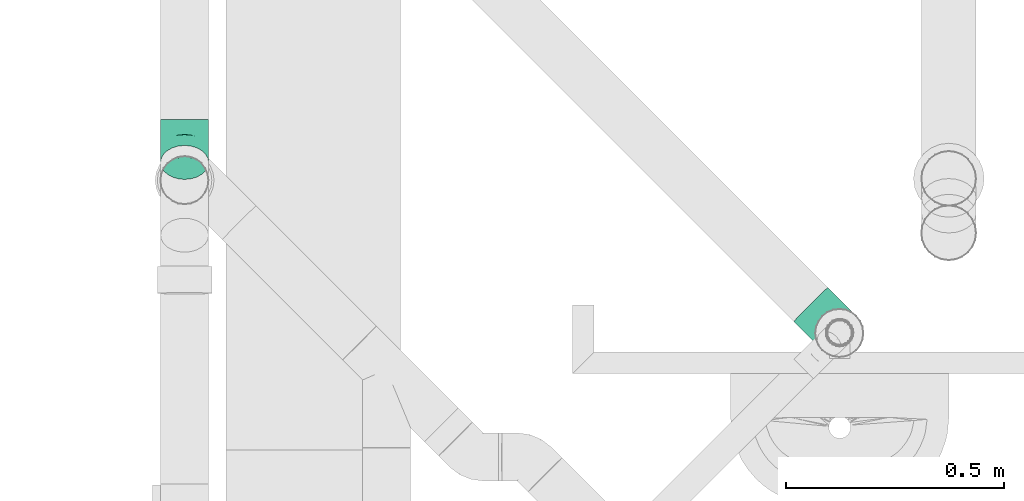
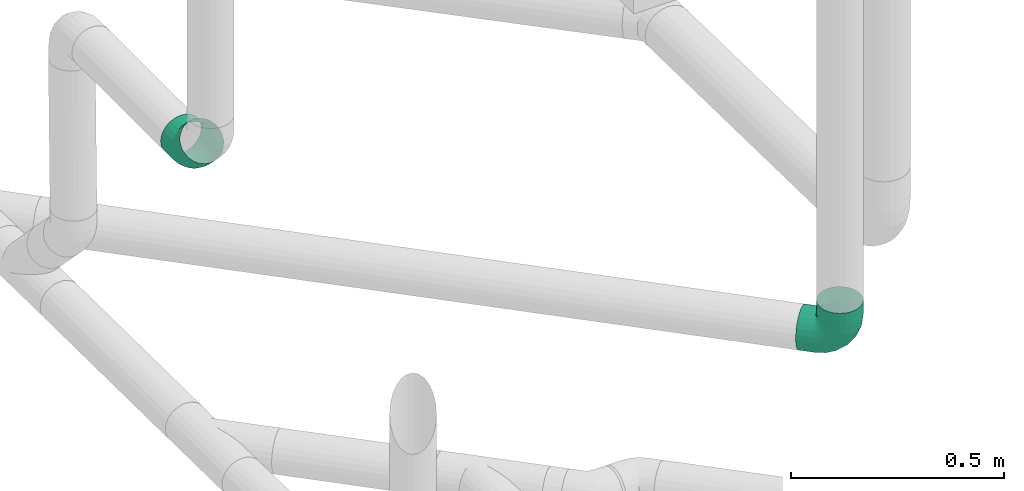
# One storey, part 137 of 374: 2 flow fittings.
"""IFC2X3 building model written with IfcOpenShell, lengths in metres."""

from ifc_helpers import new_model, si_unit, direction, origin, place, context, subcontext, project, spatial, open_shell, surface_model, source, transform, mapped, element, save


model = new_model("IFC2X3")

# Units and contexts
model_context = context("Model", 3, precision=1e-05, world=origin(), true_north=direction((-0.4480736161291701, 0.8939966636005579)))
body_context = subcontext(model_context, "Body", "Model", "MODEL_VIEW")
ifc_project = project(units=[si_unit("LENGTHUNIT", "METRE"), si_unit("AREAUNIT", "SQUARE_METRE"), si_unit("VOLUMEUNIT", "CUBIC_METRE"), si_unit("PLANEANGLEUNIT", "RADIAN"), si_unit("THERMODYNAMICTEMPERATUREUNIT", "KELVIN"), si_unit("MASSUNIT", "GRAM", prefix="KILO"), si_unit("TIMEUNIT", "SECOND")], contexts=[model_context])

# Site, building, storey
site_placement = place(None, origin())
site = spatial("IfcSite", under=ifc_project, at=site_placement, Name="Site 1", CompositionType="ELEMENT")
building_placement = place(site_placement, origin())
building = spatial("IfcBuilding", under=site, at=building_placement, Name="Undefined", CompositionType="ELEMENT")
storey_placement = place(building_placement, origin())
storey = spatial("IfcBuildingStorey", under=building, at=storey_placement, Name="Rez de chauss\x8ee", CompositionType="ELEMENT", Elevation=0.0)

# Flow fittings
shared_shape_1 = source(origin(), body_context, "Body", "SurfaceModel", [
    surface_model("IfcFaceBasedSurfaceModel", [(0.0, 0.014357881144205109, -3.552713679e-15), (0.0, 0.0, 0.0), (0.03509999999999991, 1.776356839e-15, -1.776356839e-15), (0.03509999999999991, 0.014357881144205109, 0.0), (0.0, -0.01386864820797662, -0.0037160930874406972), (0.035100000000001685, -0.01386864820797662, -0.003716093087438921), (0.0, -0.026302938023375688, -0.010895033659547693), (0.03509999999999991, -0.026302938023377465, -0.010895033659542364), (0.0, -0.03645549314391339, -0.021047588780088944), (0.035100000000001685, -0.03645549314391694, -0.021047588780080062), (0.0, -0.04363443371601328, -0.033481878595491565), (0.035100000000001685, -0.043634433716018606, -0.03348187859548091), (0.0, -0.04735052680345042, -0.04735052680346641), (0.03510000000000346, -0.04735052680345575, -0.04735052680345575), (0.0, -0.04735052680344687, -0.06170840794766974), (0.035100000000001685, -0.047350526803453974, -0.061708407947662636), (0.0, -0.04363443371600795, -0.07557705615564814), (0.035100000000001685, -0.04363443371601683, -0.07557705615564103), (0.0, -0.03645549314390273, -0.08801134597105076), (0.035100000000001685, -0.03645549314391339, -0.08801134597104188), (0.0, -0.026302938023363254, -0.0981639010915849), (0.03510000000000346, -0.026302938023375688, -0.09816390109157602), (0.0, -0.013868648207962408, -0.1053428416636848), (0.03510000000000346, -0.013868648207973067, -0.10534284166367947), (0.0, 1.5987211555e-14, -0.10905893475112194), (0.03510000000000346, 5.329070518e-15, -0.10905893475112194), (0.0, 0.014357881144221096, -0.10905893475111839), (0.035100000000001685, 0.014357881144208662, -0.10905893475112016), (0.0, 0.028226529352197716, -0.10534284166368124), (0.03510000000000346, 0.02822652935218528, -0.10534284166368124), (0.0, 0.040660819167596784, -0.0981639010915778), (0.03510000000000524, 0.040660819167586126, -0.09816390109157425), (0.0, 0.05081337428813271, -0.08801134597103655), (0.035100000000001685, 0.050813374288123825, -0.08801134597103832), (0.0, 0.05799231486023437, -0.07557705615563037), (0.035100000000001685, 0.05799231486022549, -0.07557705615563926), (0.0, 0.06170840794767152, -0.06170840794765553), (0.035100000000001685, 0.06170840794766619, -0.06170840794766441), (0.0, 0.061708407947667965, -0.0473505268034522), (0.035100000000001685, 0.061708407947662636, -0.0473505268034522), (0.0, 0.05799231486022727, -0.033481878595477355), (0.03510000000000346, 0.057992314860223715, -0.033481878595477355), (0.0, 0.050813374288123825, -0.021047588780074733), (0.035100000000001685, 0.05081337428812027, -0.021047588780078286), (0.0, 0.04066081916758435, -0.010895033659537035), (0.035100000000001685, 0.040660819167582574, -0.010895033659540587), (0.0, 0.028226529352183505, -0.0037160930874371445), (0.035100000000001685, 0.028226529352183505, -0.003716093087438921), (0.06308504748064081, -0.04369774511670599, -0.06218930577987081), (0.06357009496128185, -0.04363443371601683, -0.04783975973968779), (0.08916296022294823, -0.03298833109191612, -0.0635992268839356), (0.09010000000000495, -0.032739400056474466, -0.04927411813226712), (0.11155657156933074, -0.015952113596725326, -0.06584208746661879), (0.11288174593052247, -0.015407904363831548, -0.051555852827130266), (0.061662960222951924, -0.040167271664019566, -0.07603351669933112), (0.08641569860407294, -0.030002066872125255, -0.07737179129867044), (0.10767135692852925, -0.013831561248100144, -0.07950067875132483), (0.05940074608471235, -0.03328360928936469, -0.08842893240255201), (0.08204543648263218, -0.023984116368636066, -0.0896532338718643), (0.10149087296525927, -0.009190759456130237, -0.09160081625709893), (0.05645257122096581, -0.02351586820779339, -0.09853082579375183), (0.07635000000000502, -0.015344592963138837, -0.09960659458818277), (0.09343630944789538, -0.0023459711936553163, -0.10131789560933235), (0.053019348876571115, -0.011529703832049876, -0.1056507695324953), (0.06971752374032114, -0.004672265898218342, -0.10655356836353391), (0.08405657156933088, 0.006236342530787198, -0.10798971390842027), (0.049335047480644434, 0.0018580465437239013, -0.10930355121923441), (0.06260000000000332, 0.007305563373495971, -0.1100207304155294), (0.07399087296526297, 0.015971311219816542, -0.11116159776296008), (0.0456507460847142, 0.015735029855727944, -0.1092402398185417), (0.05548247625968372, 0.01977262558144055, -0.10977179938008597), (0.0639251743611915, 0.0261955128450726, -0.11061738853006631), (0.042217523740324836, 0.029155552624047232, -0.10546514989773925), (0.04885000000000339, 0.03187931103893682, -0.10582373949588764), (0.05454543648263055, 0.03621218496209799, -0.10639417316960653), (0.03926934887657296, 0.04120502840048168, -0.09823554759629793), (0.043154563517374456, 0.04280056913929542, -0.09844560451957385), (0.046490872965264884, 0.045338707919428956, -0.09877975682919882), (0.03700713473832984, 0.05106230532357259, -0.08804411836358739), (0.03878430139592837, 0.05179213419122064, -0.08814020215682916), (0.04031038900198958, 0.052953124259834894, -0.08829304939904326), (0.03558504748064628, 0.058055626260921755, -0.07558539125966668), (0.03603703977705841, 0.0582412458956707, -0.07560982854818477), (0.03642517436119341, 0.05853652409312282, -0.07564870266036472), (0.035585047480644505, 0.0617717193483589, -0.047358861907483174), (0.036037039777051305, 0.0619573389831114, -0.04738329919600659), (0.03642517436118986, 0.06225261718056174, -0.04742217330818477), (0.037007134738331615, 0.05824124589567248, -0.03351465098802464), (0.03878430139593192, 0.05897107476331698, -0.03361073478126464), (0.04031038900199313, 0.06013206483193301, -0.03376358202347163), (0.039269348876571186, 0.05135758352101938, -0.02111923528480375), (0.04315456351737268, 0.05295312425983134, -0.021329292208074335), (0.046490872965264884, 0.05549126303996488, -0.021663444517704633), (0.04221752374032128, 0.041589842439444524, -0.01101734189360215), (0.04884999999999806, 0.044313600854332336, -0.011375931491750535), (0.054545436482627, 0.04864647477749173, -0.01194636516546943), (0.04565074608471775, 0.029603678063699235, -0.003897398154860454), (0.05548247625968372, 0.03364127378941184, -0.004428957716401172), (0.0639251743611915, 0.040064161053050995, -0.005274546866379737), (0.04933504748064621, 0.016215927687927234, -0.0002446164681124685), (0.06260000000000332, 0.021663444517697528, -0.000961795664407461), (0.07399087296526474, 0.030329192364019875, -0.002102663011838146), (0.05301934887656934, 0.0023389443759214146, -0.0003079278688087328), (0.06971752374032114, 0.009196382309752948, -0.0012107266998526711), (0.08405657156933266, 0.020104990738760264, -0.0026468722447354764), (0.05645257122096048, -0.011081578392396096, -0.004083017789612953), (0.0763499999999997, -0.002910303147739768, -0.0051587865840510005), (0.09343630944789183, 0.010088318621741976, -0.006870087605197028), (0.059400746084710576, -0.023131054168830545, -0.011312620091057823), (0.08204543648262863, -0.01383156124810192, -0.012536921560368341), (0.1014908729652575, 0.0009617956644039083, -0.01448450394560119), (0.0616629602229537, -0.032988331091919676, -0.021504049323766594), (0.0864156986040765, -0.022823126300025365, -0.022842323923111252), (0.10767135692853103, -0.006652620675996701, -0.024971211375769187), (0.06308504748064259, -0.03998165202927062, -0.033962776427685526), (0.08916296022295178, -0.02927223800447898, -0.035372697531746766), (0.1115565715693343, -0.012236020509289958, -0.03761555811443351), (0.1363760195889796, 0.008655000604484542, -0.06908167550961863), (0.13770119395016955, 0.00919920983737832, -0.05479544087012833), (0.13249080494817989, 0.0107755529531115, -0.08274026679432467), (0.12631032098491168, 0.01541635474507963, -0.09484040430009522), (0.11825575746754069, 0.02226114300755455, -0.10455748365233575), (0.1088760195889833, 0.03084345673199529, -0.11122930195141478), (0.09881032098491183, 0.04057842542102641, -0.11440118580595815), (0.08874462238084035, 0.05080262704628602, -0.11385697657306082), (0.07936488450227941, 0.06081929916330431, -0.10963376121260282), (0.07131032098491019, 0.0699458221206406, -0.10201934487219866), (0.06512983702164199, 0.07756023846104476, -0.09153263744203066), (0.06124462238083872, 0.08314363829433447, -0.07888829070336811), (0.059919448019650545, 0.08631552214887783, -0.0649479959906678), (0.06124462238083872, 0.08685973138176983, -0.05066176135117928), (0.06512983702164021, 0.08473917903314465, -0.03700317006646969), (0.07131032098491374, 0.08009837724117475, -0.024903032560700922), (0.07936488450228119, 0.07325358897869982, -0.015185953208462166), (0.0887446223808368, 0.06467127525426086, -0.008514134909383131), (0.09881032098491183, 0.05493630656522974, -0.005342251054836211), (0.10887601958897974, 0.04471210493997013, -0.0058864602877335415), (0.11825575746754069, 0.03469543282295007, -0.010109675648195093), (0.1263103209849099, 0.02556890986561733, -0.017724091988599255), (0.13249080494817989, 0.017954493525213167, -0.0282107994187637), (0.13637601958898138, 0.012371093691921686, -0.04085514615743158)], [open_shell([[[0, 1, 2, 3]], [[1, 4, 5, 2]], [[4, 6, 7, 5]], [[6, 8, 9, 7]], [[8, 10, 11, 9]], [[10, 12, 13, 11]], [[12, 14, 15, 13]], [[14, 16, 17, 15]], [[16, 18, 19, 17]], [[18, 20, 21, 19]], [[20, 22, 23, 21]], [[22, 24, 25, 23]], [[24, 26, 27, 25]], [[26, 28, 29, 27]], [[28, 30, 31, 29]], [[30, 32, 33, 31]], [[32, 34, 35, 33]], [[34, 36, 37, 35]], [[36, 38, 39, 37]], [[38, 40, 41, 39]], [[40, 42, 43, 41]], [[42, 44, 45, 43]], [[44, 46, 47, 45]], [[46, 0, 3, 47]], [[13, 15, 48, 49]], [[49, 48, 50, 51]], [[51, 50, 52, 53]], [[15, 17, 54, 48]], [[48, 54, 55, 50]], [[50, 55, 56, 52]], [[17, 19, 57, 54]], [[54, 57, 58, 55]], [[55, 58, 59, 56]], [[19, 21, 60, 57]], [[57, 60, 61, 58]], [[58, 61, 62, 59]], [[21, 23, 63, 60]], [[60, 63, 64, 61]], [[61, 64, 65, 62]], [[23, 25, 66, 63]], [[63, 66, 67, 64]], [[64, 67, 68, 65]], [[25, 27, 69, 66]], [[66, 69, 70, 67]], [[67, 70, 71, 68]], [[27, 29, 72, 69]], [[69, 72, 73, 70]], [[70, 73, 74, 71]], [[29, 31, 75, 72]], [[72, 75, 76, 73]], [[73, 76, 77, 74]], [[31, 33, 78, 75]], [[75, 78, 79, 76]], [[76, 79, 80, 77]], [[33, 35, 81, 78]], [[78, 81, 82, 79]], [[79, 82, 83, 80]], [[35, 37, 81]], [[81, 37, 82]], [[82, 37, 83]], [[37, 39, 84]], [[37, 84, 85]], [[37, 85, 86]], [[39, 41, 87, 84]], [[84, 87, 88, 85]], [[85, 88, 89, 86]], [[41, 43, 90, 87]], [[87, 90, 91, 88]], [[88, 91, 92, 89]], [[43, 45, 93, 90]], [[90, 93, 94, 91]], [[91, 94, 95, 92]], [[45, 47, 96, 93]], [[93, 96, 97, 94]], [[94, 97, 98, 95]], [[47, 3, 99, 96]], [[96, 99, 100, 97]], [[97, 100, 101, 98]], [[3, 2, 102, 99]], [[99, 102, 103, 100]], [[100, 103, 104, 101]], [[2, 5, 105, 102]], [[102, 105, 106, 103]], [[103, 106, 107, 104]], [[5, 7, 108, 105]], [[105, 108, 109, 106]], [[106, 109, 110, 107]], [[7, 9, 111, 108]], [[108, 111, 112, 109]], [[109, 112, 113, 110]], [[9, 11, 114, 111]], [[111, 114, 115, 112]], [[112, 115, 116, 113]], [[11, 13, 49, 114]], [[114, 49, 51, 115]], [[115, 51, 53, 116]], [[53, 52, 117, 118]], [[52, 56, 119, 117]], [[56, 59, 120, 119]], [[59, 62, 121, 120]], [[62, 65, 122, 121]], [[65, 68, 123, 122]], [[68, 71, 124, 123]], [[71, 74, 125, 124]], [[74, 77, 126, 125]], [[77, 80, 127, 126]], [[80, 83, 128, 127]], [[83, 37, 129, 128]], [[37, 86, 130, 129]], [[86, 89, 131, 130]], [[89, 92, 132, 131]], [[92, 95, 133, 132]], [[95, 98, 134, 133]], [[98, 101, 135, 134]], [[101, 104, 136, 135]], [[104, 107, 137, 136]], [[107, 110, 138, 137]], [[110, 113, 139, 138]], [[113, 116, 140, 139]], [[116, 53, 118, 140]]])]),
])
flow_fitting_1_placement = place(storey_placement, origin())
element("IfcFlowFitting", 1, at=flow_fitting_1_placement, inside=storey, Name="PE-HD coude 45°", ObjectType="PE-HD coude 45°", context=body_context, shape_type="MappedRepresentation", body=[
    mapped(shared_shape_1, transform((57.12712592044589, 13.791862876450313, -0.3555799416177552), x_axis=(-5.23364153e-16, 0.7071067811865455, -0.7071067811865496), y_axis=(0.13052619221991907, 0.7010573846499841, 0.7010573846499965), z_axis=(0.9914448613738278, -0.09229595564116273, -0.09229595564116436))),
])
shared_shape_2 = source(origin(), body_context, "Body", "SurfaceModel", [
    surface_model("IfcFaceBasedSurfaceModel", [(0.0, 0.014357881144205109, -3.552713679e-15), (0.0, 0.0, 0.0), (0.03869999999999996, -7.105427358e-15, 7.105427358e-15), (0.03869999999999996, 0.014357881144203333, 7.105427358e-15), (0.0, -0.01386864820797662, -0.0037160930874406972), (0.03869999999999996, -0.013868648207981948, -0.003716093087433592), (0.0, -0.026302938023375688, -0.010895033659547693), (0.03869999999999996, -0.02630293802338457, -0.010895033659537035), (0.0, -0.03645549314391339, -0.021047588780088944), (0.03869999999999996, -0.03645549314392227, -0.02104758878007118), (0.0, -0.04363443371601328, -0.033481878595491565), (0.03869999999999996, -0.043634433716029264, -0.033481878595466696), (0.0, -0.04735052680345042, -0.04735052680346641), (0.03869999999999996, -0.047350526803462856, -0.04735052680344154), (0.0, -0.04735052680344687, -0.06170840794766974), (0.03869999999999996, -0.047350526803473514, -0.061708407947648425), (0.0, -0.04363443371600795, -0.07557705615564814), (0.03869999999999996, -0.043634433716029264, -0.07557705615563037), (0.0, -0.03645549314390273, -0.08801134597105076), (0.03869999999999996, -0.03645549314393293, -0.088011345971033), (0.0, -0.026302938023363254, -0.0981639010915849), (0.03869999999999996, -0.02630293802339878, -0.09816390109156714), (0.0, -0.013868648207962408, -0.1053428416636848), (0.03869999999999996, -0.013868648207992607, -0.10534284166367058), (0.0, 1.5987211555e-14, -0.10905893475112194), (0.03869999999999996, -1.4210854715e-14, -0.10905893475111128), (0.0, 0.014357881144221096, -0.10905893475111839), (0.03869999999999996, 0.01435788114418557, -0.10905893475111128), (0.0, 0.028226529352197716, -0.10534284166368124), (0.03869999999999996, 0.028226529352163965, -0.10534284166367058), (0.0, 0.040660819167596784, -0.0981639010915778), (0.03869999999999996, 0.040660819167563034, -0.09816390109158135), (0.0, 0.05081337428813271, -0.08801134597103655), (0.03869999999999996, 0.050813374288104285, -0.088011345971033), (0.0, 0.05799231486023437, -0.07557705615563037), (0.03869999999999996, 0.05799231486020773, -0.07557705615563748), (0.0, 0.06170840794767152, -0.06170840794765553), (0.03869999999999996, 0.06170840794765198, -0.061708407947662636), (0.0, 0.061708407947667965, -0.0473505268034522), (0.03869999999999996, 0.06170840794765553, -0.047350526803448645), (0.0, 0.05799231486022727, -0.033481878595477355), (0.03869999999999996, 0.05799231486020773, -0.03348187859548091), (0.0, 0.050813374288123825, -0.021047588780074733), (0.03869999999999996, 0.05081337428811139, -0.02104758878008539), (0.0, 0.04066081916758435, -0.010895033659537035), (0.03869999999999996, 0.040660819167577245, -0.01089503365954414), (0.0, 0.028226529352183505, -0.0037160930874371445), (0.03869999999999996, 0.028226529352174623, -0.0037160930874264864), (0.06642387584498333, -0.04376678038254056, -0.06218021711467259), (0.06690439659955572, -0.043704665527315, -0.04783051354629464), (0.09229412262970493, -0.033255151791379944, -0.06356409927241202), (0.09322303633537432, -0.03301084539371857, -0.04923838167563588), (0.11458104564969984, -0.01651845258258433, -0.06576752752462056), (0.11589624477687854, -0.015984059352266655, -0.051480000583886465), (0.1317945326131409, 0.0053242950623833, -0.06864317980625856), (0.13340808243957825, 0.006237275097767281, -0.05440549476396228), (0.1427836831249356, 0.03081267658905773, -0.07199878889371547), (0.14458770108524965, 0.03216743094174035, -0.05781926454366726), (0.14681375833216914, 0.05824252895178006, -0.07560999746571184), (0.14868762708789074, 0.060072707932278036, -0.06149306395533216), (0.06501506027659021, -0.040232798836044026, -0.07602488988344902), (0.08957068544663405, -0.030255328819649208, -0.07733844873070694), (0.11072507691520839, -0.014369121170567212, -0.07942990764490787), (0.12706384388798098, 0.0063636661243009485, -0.08215943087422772), (0.1374945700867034, 0.03055683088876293, -0.08534452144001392), (0.14131985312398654, 0.05659280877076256, -0.08877222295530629), (0.06277395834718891, -0.03334355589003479, -0.0884210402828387), (0.08523832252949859, -0.02421580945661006, -0.08962273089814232), (0.1045911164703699, -0.009682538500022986, -0.09153607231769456), (0.11953840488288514, 0.009284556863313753, -0.0940331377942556), (0.1290808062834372, 0.03141732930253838, -0.09694697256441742), (0.13258031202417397, 0.05523597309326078, -0.10008275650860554), (0.05985329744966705, -0.023568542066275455, -0.09852389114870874), (0.07959227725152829, -0.015548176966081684, -0.0995797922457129), (0.09659718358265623, -0.002778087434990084, -0.10126100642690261), (0.1097310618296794, 0.01388791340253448, -0.10345512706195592), (0.11811577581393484, 0.0333355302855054, -0.10601545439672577), (0.12119072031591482, 0.054264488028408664, -0.10877080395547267), (0.05645211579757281, -0.011573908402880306, -0.10564494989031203), (0.07301731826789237, -0.004843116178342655, -0.10653107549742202), (0.08728805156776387, 0.005873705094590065, -0.10794197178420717), (0.09831016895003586, 0.019860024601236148, -0.10978330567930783), (0.10534672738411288, 0.036180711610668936, -0.11193196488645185), (0.10792725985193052, 0.053744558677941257, -0.114244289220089), (0.052802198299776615, 0.0018229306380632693, -0.10929892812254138), (0.06596151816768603, 0.007169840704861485, -0.11000286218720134), (0.0772981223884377, 0.015683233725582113, -0.11112367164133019), (0.08605404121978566, 0.026793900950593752, -0.1125864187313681), (0.09164385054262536, 0.03975897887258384, -0.11429330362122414), (0.09369381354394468, 0.05371161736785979, -0.11613020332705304), (0.049152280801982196, 0.01570900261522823, -0.10923681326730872), (0.05890571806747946, 0.019672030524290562, -0.10975855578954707), (0.06730819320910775, 0.025981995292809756, -0.11058927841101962), (0.07379791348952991, 0.034217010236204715, -0.11167343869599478), (0.07794097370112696, 0.04382647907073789, -0.11293854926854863), (0.07946036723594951, 0.0541679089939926, -0.11430002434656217), (0.04575109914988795, 0.02913799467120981, -0.10546283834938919), (0.05233075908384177, 0.03181144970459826, -0.10581480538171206), (0.057999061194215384, 0.036068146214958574, -0.10637521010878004), (0.06237702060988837, 0.041623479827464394, -0.10710658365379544), (0.06517192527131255, 0.04810601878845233, -0.10796002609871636), (0.0661969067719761, 0.05508233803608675, -0.10887847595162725), (0.0428304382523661, 0.04119474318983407, -0.09823419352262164), (0.04668471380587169, 0.04276081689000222, -0.09844037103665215), (0.05000512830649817, 0.0452543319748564, -0.0987686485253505), (0.05256967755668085, 0.04850857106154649, -0.09919707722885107), (0.054206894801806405, 0.052305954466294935, -0.09969701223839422), (0.05480731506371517, 0.05639258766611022, -0.1002350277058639), (0.04058933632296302, 0.051057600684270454, -0.08804349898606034), (0.04235235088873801, 0.05177395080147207, -0.08813780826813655), (0.043871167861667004, 0.05291452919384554, -0.08828796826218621), (0.04504423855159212, 0.05440307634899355, -0.08848393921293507), (0.04579313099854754, 0.056140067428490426, -0.08871261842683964), (0.04606777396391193, 0.058009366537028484, -0.08895871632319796), (0.03918052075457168, 0.05805442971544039, -0.07558523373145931), (0.039628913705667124, 0.05823662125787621, -0.07560921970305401), (0.040015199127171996, 0.0585267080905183, -0.07564741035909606), (0.040313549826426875, 0.05890529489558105, -0.07569725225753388), (0.040504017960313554, 0.05934706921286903, -0.07575541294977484), (0.04057386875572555, 0.05982249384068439, -0.07581800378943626), (0.03918052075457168, 0.06177052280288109, -0.04735870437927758), (0.039628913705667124, 0.06195271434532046, -0.047382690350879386), (0.040015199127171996, 0.0622428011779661, -0.047420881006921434), (0.040313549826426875, 0.06262138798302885, -0.04747072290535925), (0.040504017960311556, 0.06306316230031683, -0.04752888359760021), (0.040573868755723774, 0.06353858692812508, -0.04759147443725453), (0.0405893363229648, 0.058236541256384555, -0.033514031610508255), (0.04235235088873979, 0.05895289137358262, -0.03360834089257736), (0.043871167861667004, 0.06009346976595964, -0.033758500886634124), (0.04504423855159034, 0.06158201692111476, -0.03395447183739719), (0.04579313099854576, 0.06331900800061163, -0.03418315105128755), (0.04606777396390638, 0.06518830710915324, -0.03442924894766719), (0.0428304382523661, 0.05134729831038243, -0.021117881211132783), (0.04668471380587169, 0.052913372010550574, -0.021324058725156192), (0.05000512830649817, 0.055406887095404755, -0.02165233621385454), (0.05256967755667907, 0.05866112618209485, -0.02208076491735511), (0.054206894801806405, 0.06245850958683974, -0.022580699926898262), (0.05480731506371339, 0.06654514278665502, -0.02311871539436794), (0.04575109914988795, 0.041572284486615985, -0.011015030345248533), (0.05233075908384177, 0.04424573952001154, -0.01136699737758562), (0.057999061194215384, 0.0485024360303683, -0.01192740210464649), (0.06237702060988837, 0.054057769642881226, -0.012658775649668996), (0.06517192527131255, 0.06054030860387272, -0.013512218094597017), (0.0661969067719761, 0.06751662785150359, -0.014430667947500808), (0.049152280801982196, 0.029577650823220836, -0.0038939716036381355), (0.058905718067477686, 0.03354067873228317, -0.0044157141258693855), (0.06730819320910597, 0.03985064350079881, -0.0052464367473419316), (0.07379791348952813, 0.048085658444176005, -0.006330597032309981), (0.07794097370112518, 0.05769512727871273, -0.007595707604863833), (0.07946036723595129, 0.06803655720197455, -0.008957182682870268), (0.052802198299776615, 0.01618081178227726, -0.00023999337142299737), (0.06596151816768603, 0.02152772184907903, -0.000943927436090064), (0.07729812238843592, 0.030041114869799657, -0.0020647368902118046), (0.08605404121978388, 0.04115178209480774, -0.0035274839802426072), (0.09164385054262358, 0.05411686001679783, -0.005234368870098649), (0.09369381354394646, 0.06806949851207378, -0.007071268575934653), (0.056452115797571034, 0.0022947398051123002, -0.0003021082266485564), (0.07301731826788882, 0.0090255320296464, -0.0011882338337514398), (0.08728805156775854, 0.01974235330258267, -0.002599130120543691), (0.09831016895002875, 0.03372867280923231, -0.004440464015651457), (0.10534672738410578, 0.05004935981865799, -0.006589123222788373), (0.10792725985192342, 0.0676132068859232, -0.008901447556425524), (0.05985329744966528, -0.011134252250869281, -0.004076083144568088), (0.07959227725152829, -0.0031138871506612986, -0.005131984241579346), (0.09659718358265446, 0.009656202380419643, -0.006813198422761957), (0.1097310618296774, 0.026322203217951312, -0.009007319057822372), (0.11811577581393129, 0.045769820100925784, -0.011567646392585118), (0.12119072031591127, 0.06669877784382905, -0.014322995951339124), (0.06277395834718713, -0.023191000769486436, -0.011304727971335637), (0.08523832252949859, -0.01406325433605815, -0.012506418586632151), (0.10459111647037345, 0.00047001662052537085, -0.014419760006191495), (0.11953840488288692, 0.019437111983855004, -0.01691682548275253), (0.12908080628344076, 0.041569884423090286, -0.019830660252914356), (0.13258031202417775, 0.06538852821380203, -0.022966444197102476), (0.06501506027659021, -0.033053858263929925, -0.021495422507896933), (0.08957068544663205, -0.02307638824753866, -0.022808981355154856), (0.11072507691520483, -0.007190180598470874, -0.024900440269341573), (0.1270638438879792, 0.013542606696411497, -0.027629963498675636), (0.1374945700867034, 0.03773577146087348, -0.030815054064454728), (0.14131985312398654, 0.063771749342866, -0.0342427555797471), (0.06642387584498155, -0.04005068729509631, -0.033953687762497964), (0.09229412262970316, -0.02953905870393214, -0.035337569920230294), (0.11458104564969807, -0.012802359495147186, -0.03754099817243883), (0.1317945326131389, 0.009040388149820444, -0.040416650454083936), (0.14278368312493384, 0.03452876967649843, -0.04377225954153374), (0.14681375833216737, 0.061958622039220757, -0.04738346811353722), (0.14739419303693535, 0.09660712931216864, -0.08066079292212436), (0.14926806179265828, 0.09843730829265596, -0.06654385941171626), (0.1419002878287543, 0.09495740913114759, -0.0938230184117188), (0.1331607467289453, 0.09360057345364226, -0.10513355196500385), (0.1217711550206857, 0.09262908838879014, -0.11382159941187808), (0.10850769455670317, 0.09210915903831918, -0.11929508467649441), (0.09427424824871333, 0.09207621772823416, -0.12118099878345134), (0.0800408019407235, 0.09253250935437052, -0.11935081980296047), (0.06677734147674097, 0.09344693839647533, -0.11392927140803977), (0.055387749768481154, 0.09475718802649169, -0.10528582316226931), (0.046648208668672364, 0.09637396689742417, -0.09400951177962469), (0.041154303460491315, 0.09818709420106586, -0.08086879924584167), (0.039280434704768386, 0.10007300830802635, -0.06675920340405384), (0.041154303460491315, 0.10190318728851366, -0.05264226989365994), (0.046648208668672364, 0.10355290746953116, -0.039480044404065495), (0.055387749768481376, 0.10490974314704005, -0.02816951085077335), (0.06677734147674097, 0.10588122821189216, -0.019481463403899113), (0.0800408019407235, 0.10640115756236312, -0.014007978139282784), (0.09427424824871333, 0.10643409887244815, -0.012122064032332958), (0.10850769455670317, 0.10597780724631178, -0.013952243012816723), (0.1217711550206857, 0.10506337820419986, -0.01937379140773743), (0.1331607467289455, 0.10375312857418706, -0.02801723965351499), (0.1419002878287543, 0.10213634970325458, -0.03929355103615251), (0.14739419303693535, 0.10032322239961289, -0.05243426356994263)], [open_shell([[[0, 1, 2, 3]], [[1, 4, 5, 2]], [[4, 6, 7, 5]], [[6, 8, 9, 7]], [[8, 10, 11, 9]], [[10, 12, 13, 11]], [[12, 14, 15, 13]], [[14, 16, 17, 15]], [[16, 18, 19, 17]], [[18, 20, 21, 19]], [[20, 22, 23, 21]], [[22, 24, 25, 23]], [[24, 26, 27, 25]], [[26, 28, 29, 27]], [[28, 30, 31, 29]], [[30, 32, 33, 31]], [[32, 34, 35, 33]], [[34, 36, 37, 35]], [[36, 38, 39, 37]], [[38, 40, 41, 39]], [[40, 42, 43, 41]], [[42, 44, 45, 43]], [[44, 46, 47, 45]], [[46, 0, 3, 47]], [[13, 15, 48, 49]], [[49, 48, 50, 51]], [[51, 50, 52, 53]], [[53, 52, 54, 55]], [[55, 54, 56, 57]], [[57, 56, 58, 59]], [[15, 17, 60, 48]], [[48, 60, 61, 50]], [[50, 61, 62, 52]], [[52, 62, 63, 54]], [[54, 63, 64, 56]], [[56, 64, 65, 58]], [[17, 19, 66, 60]], [[60, 66, 67, 61]], [[61, 67, 68, 62]], [[62, 68, 69, 63]], [[63, 69, 70, 64]], [[64, 70, 71, 65]], [[19, 21, 72, 66]], [[66, 72, 73, 67]], [[67, 73, 74, 68]], [[68, 74, 75, 69]], [[69, 75, 76, 70]], [[70, 76, 77, 71]], [[21, 23, 78, 72]], [[72, 78, 79, 73]], [[73, 79, 80, 74]], [[74, 80, 81, 75]], [[75, 81, 82, 76]], [[76, 82, 83, 77]], [[23, 25, 84, 78]], [[78, 84, 85, 79]], [[79, 85, 86, 80]], [[80, 86, 87, 81]], [[81, 87, 88, 82]], [[82, 88, 89, 83]], [[25, 27, 90, 84]], [[84, 90, 91, 85]], [[85, 91, 92, 86]], [[86, 92, 93, 87]], [[87, 93, 94, 88]], [[88, 94, 95, 89]], [[27, 29, 96, 90]], [[90, 96, 97, 91]], [[91, 97, 98, 92]], [[92, 98, 99, 93]], [[93, 99, 100, 94]], [[94, 100, 101, 95]], [[29, 31, 102, 96]], [[96, 102, 103, 97]], [[97, 103, 104, 98]], [[98, 104, 105, 99]], [[99, 105, 106, 100]], [[100, 106, 107, 101]], [[31, 33, 108, 102]], [[102, 108, 109, 103]], [[103, 109, 110, 104]], [[104, 110, 111, 105]], [[105, 111, 112, 106]], [[106, 112, 113, 107]], [[33, 35, 114, 108]], [[108, 114, 115, 109]], [[109, 115, 116, 110]], [[110, 116, 117, 111]], [[111, 117, 118, 112]], [[112, 118, 119, 113]], [[35, 37, 114]], [[114, 37, 115]], [[115, 37, 116]], [[116, 37, 117]], [[117, 37, 118]], [[118, 37, 119]], [[37, 39, 120]], [[37, 120, 121]], [[37, 121, 122]], [[37, 122, 123]], [[37, 123, 124]], [[37, 124, 125]], [[39, 41, 126, 120]], [[120, 126, 127, 121]], [[121, 127, 128, 122]], [[122, 128, 129, 123]], [[123, 129, 130, 124]], [[124, 130, 131, 125]], [[41, 43, 132, 126]], [[126, 132, 133, 127]], [[127, 133, 134, 128]], [[128, 134, 135, 129]], [[129, 135, 136, 130]], [[130, 136, 137, 131]], [[43, 45, 138, 132]], [[132, 138, 139, 133]], [[133, 139, 140, 134]], [[134, 140, 141, 135]], [[135, 141, 142, 136]], [[136, 142, 143, 137]], [[45, 47, 144, 138]], [[138, 144, 145, 139]], [[139, 145, 146, 140]], [[140, 146, 147, 141]], [[141, 147, 148, 142]], [[142, 148, 149, 143]], [[47, 3, 150, 144]], [[144, 150, 151, 145]], [[145, 151, 152, 146]], [[146, 152, 153, 147]], [[147, 153, 154, 148]], [[148, 154, 155, 149]], [[3, 2, 156, 150]], [[150, 156, 157, 151]], [[151, 157, 158, 152]], [[152, 158, 159, 153]], [[153, 159, 160, 154]], [[154, 160, 161, 155]], [[2, 5, 162, 156]], [[156, 162, 163, 157]], [[157, 163, 164, 158]], [[158, 164, 165, 159]], [[159, 165, 166, 160]], [[160, 166, 167, 161]], [[5, 7, 168, 162]], [[162, 168, 169, 163]], [[163, 169, 170, 164]], [[164, 170, 171, 165]], [[165, 171, 172, 166]], [[166, 172, 173, 167]], [[7, 9, 174, 168]], [[168, 174, 175, 169]], [[169, 175, 176, 170]], [[170, 176, 177, 171]], [[171, 177, 178, 172]], [[172, 178, 179, 173]], [[9, 11, 180, 174]], [[174, 180, 181, 175]], [[175, 181, 182, 176]], [[176, 182, 183, 177]], [[177, 183, 184, 178]], [[178, 184, 185, 179]], [[11, 13, 49, 180]], [[180, 49, 51, 181]], [[181, 51, 53, 182]], [[182, 53, 55, 183]], [[183, 55, 57, 184]], [[184, 57, 59, 185]], [[59, 58, 186, 187]], [[58, 65, 188, 186]], [[65, 71, 189, 188]], [[71, 77, 190, 189]], [[77, 83, 191, 190]], [[83, 89, 192, 191]], [[89, 95, 193, 192]], [[95, 101, 194, 193]], [[101, 107, 195, 194]], [[107, 113, 196, 195]], [[113, 119, 197, 196]], [[119, 37, 198, 197]], [[37, 125, 199, 198]], [[125, 131, 200, 199]], [[131, 137, 201, 200]], [[137, 143, 202, 201]], [[143, 149, 203, 202]], [[149, 155, 204, 203]], [[155, 161, 205, 204]], [[161, 167, 206, 205]], [[167, 173, 207, 206]], [[173, 179, 208, 207]], [[179, 185, 209, 208]], [[185, 59, 187, 209]]])]),
])
flow_fitting_2_placement = place(storey_placement, origin())
element("IfcFlowFitting", 2, at=flow_fitting_2_placement, inside=storey, Name="PE-HD équerre de raccordement 88.5°", ObjectType="PE-HD équerre de raccordement 88.5°", context=body_context, shape_type="MappedRepresentation", body=[
    mapped(shared_shape_2, transform((58.6218390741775, 13.438369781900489, -1.0882536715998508), x_axis=(0.0, 0.0, -1.0), y_axis=(-0.6087614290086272, 0.7933533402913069, 0.0), z_axis=(0.7933533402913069, 0.6087614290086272, 0.0))),
])

save(model, "model.ifc")
